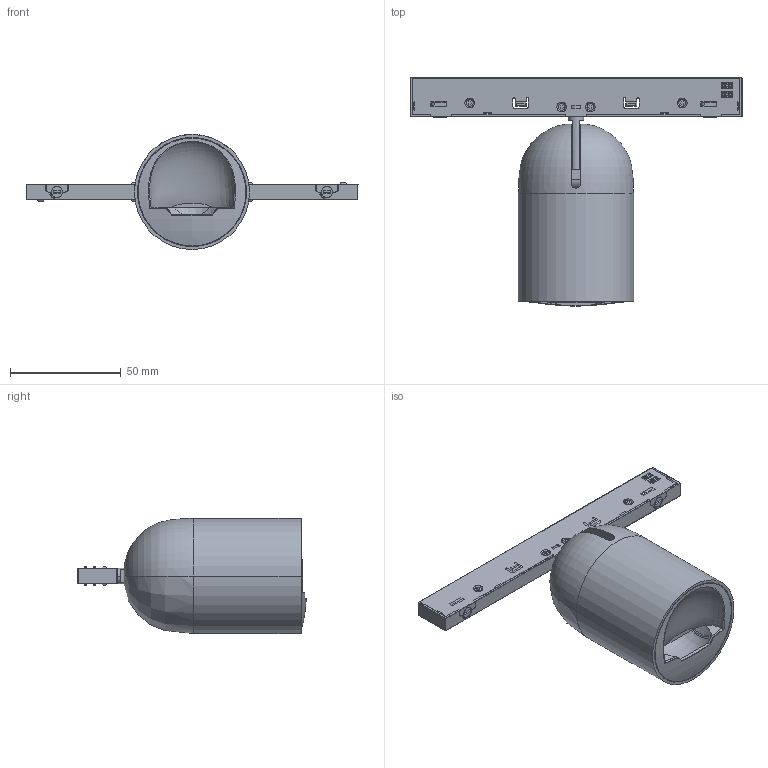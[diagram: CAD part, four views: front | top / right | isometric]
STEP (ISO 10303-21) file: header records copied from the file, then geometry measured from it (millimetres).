
FILE_DESCRIPTION((''),'2;1');
FILE_NAME('IW2010_ASM','2025-11-26T08:11:57',('ASUS'),(''),'CREO PARAMETRIC BY PTC INC, 2022073','CREO PARAMETRIC BY PTC INC, 2022073','');
FILE_SCHEMA(('AUTOMOTIVE_DESIGN { 1 0 10303 214 1 1 1 1 }'));
Length unit declared in the file: millimetre
Products named in the file (1): IW2010_ASM
Bounding box: 150 x 103.15 x 52 mm (x, y, z)
Surface area: 30550.5 mm2 (no closed solid volume)
Topology: 0 solids, 52 shells, 245 faces, 1399 edges, 1184 vertices
Faces by surface type: plane 119, cylinder 63, bspline 25, cone 21, torus 9, sphere 6, revolution 2
Entity records: 27946 total; most frequent: CARTESIAN_POINT 17131, DIRECTION 1791, ORIENTED_EDGE 1720, EDGE_CURVE 1399, VERTEX_POINT 1184, VECTOR 801, LINE 801, AXIS2_PLACEMENT_3D 494
